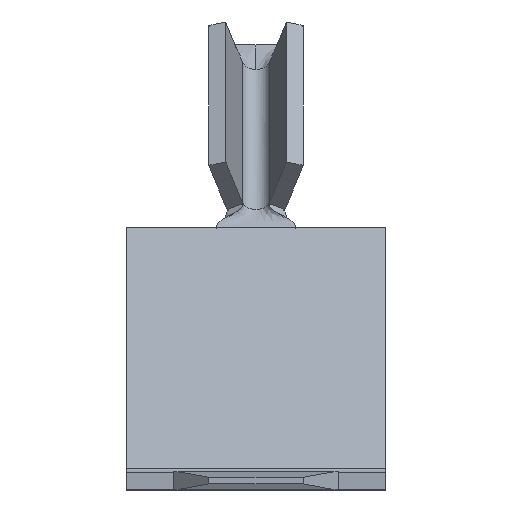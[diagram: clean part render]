
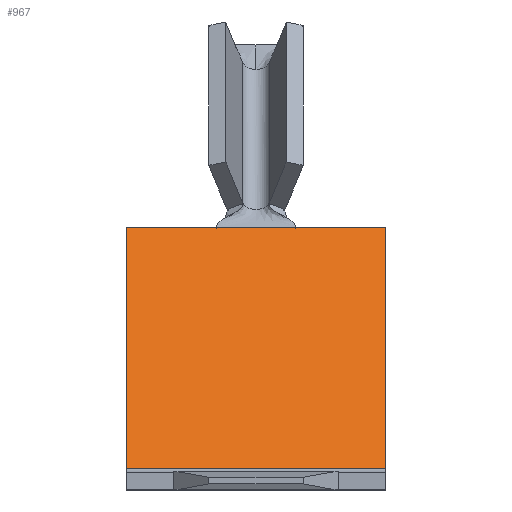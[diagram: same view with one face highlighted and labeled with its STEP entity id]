
A CAD part, top view. The second image highlights one B-rep face of the part: STEP entity #967.
In plain terms, the highlighted planar face has unit normal (0, 0.707, 0.707).
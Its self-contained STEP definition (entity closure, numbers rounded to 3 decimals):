
#111=DIRECTION('',(0.,-0.707,0.707));
#112=VECTOR('',#111,9.85);
#113=CARTESIAN_POINT('',(-3.747,7.584,-16.932));
#114=LINE('',#113,#112);
#141=DIRECTION('',(0.,-0.707,0.707));
#142=VECTOR('',#141,9.85);
#143=CARTESIAN_POINT('',(3.747,7.584,-16.932));
#144=LINE('',#143,#142);
#162=DIRECTION('',(1.,0.,0.));
#163=VECTOR('',#162,7.493);
#164=CARTESIAN_POINT('',(-3.747,0.62,-9.967));
#165=LINE('',#164,#163);
#166=DIRECTION('',(1.,0.,0.));
#167=VECTOR('',#166,2.286);
#168=CARTESIAN_POINT('',(-1.143,7.584,-16.932));
#169=LINE('',#168,#167);
#170=DIRECTION('',(1.,0.,0.));
#171=VECTOR('',#170,2.604);
#172=CARTESIAN_POINT('',(1.143,7.584,-16.932));
#173=LINE('',#172,#171);
#174=DIRECTION('',(1.,0.,0.));
#175=VECTOR('',#174,2.604);
#176=CARTESIAN_POINT('',(-3.747,7.584,-16.932));
#177=LINE('',#176,#175);
#618=CARTESIAN_POINT('',(-3.747,7.584,-16.932));
#619=VERTEX_POINT('',#618);
#620=CARTESIAN_POINT('',(-3.747,0.62,-9.967));
#621=VERTEX_POINT('',#620);
#634=CARTESIAN_POINT('',(3.747,7.584,-16.932));
#635=VERTEX_POINT('',#634);
#636=CARTESIAN_POINT('',(3.747,0.62,-9.967));
#637=VERTEX_POINT('',#636);
#700=CARTESIAN_POINT('',(1.143,7.584,-16.932));
#701=VERTEX_POINT('',#700);
#702=CARTESIAN_POINT('',(-1.143,7.584,-16.932));
#703=VERTEX_POINT('',#702);
#951=CARTESIAN_POINT('',(-3.747,7.584,-16.932));
#952=DIRECTION('',(0.,0.707,0.707));
#953=DIRECTION('',(0.,-0.707,0.707));
#954=AXIS2_PLACEMENT_3D('',#951,#952,#953);
#955=PLANE('',#954);
#957=ORIENTED_EDGE('',*,*,#956,.T.);
#959=ORIENTED_EDGE('',*,*,#958,.T.);
#960=ORIENTED_EDGE('',*,*,#927,.T.);
#961=ORIENTED_EDGE('',*,*,#944,.F.);
#962=ORIENTED_EDGE('',*,*,#896,.F.);
#964=ORIENTED_EDGE('',*,*,#963,.T.);
#965=EDGE_LOOP('',(#957,#959,#960,#961,#962,#964));
#966=FACE_OUTER_BOUND('',#965,.F.);
#896=EDGE_CURVE('',#619,#621,#114,.T.);
#927=EDGE_CURVE('',#635,#637,#144,.T.);
#944=EDGE_CURVE('',#621,#637,#165,.T.);
#956=EDGE_CURVE('',#703,#701,#169,.T.);
#958=EDGE_CURVE('',#701,#635,#173,.T.);
#963=EDGE_CURVE('',#619,#703,#177,.T.);
#967=ADVANCED_FACE('',(#966),#955,.T.);
